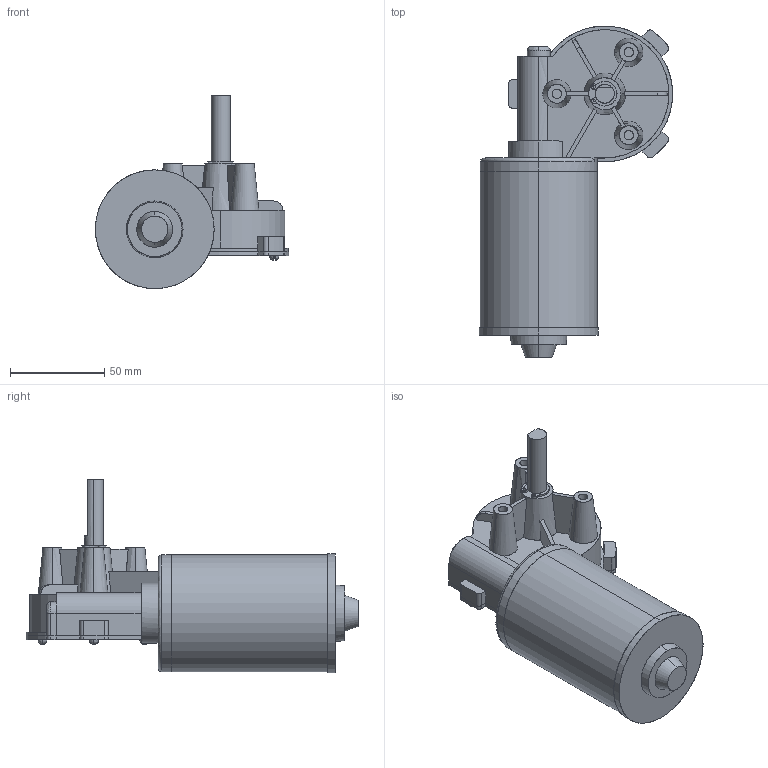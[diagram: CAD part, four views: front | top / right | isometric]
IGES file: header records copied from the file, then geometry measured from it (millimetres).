
Start section: SolidWorks IGES file using analytic representation for surfaces
Bounding box: 102.5 x 176 x 102.5 mm (x, y, z)
Surface area: 65587.8 mm2 (no closed solid volume)
Topology: 0 solids, 0 shells, 193 faces, 3126 edges, 3126 vertices
Faces by surface type: bspline 111, revolution 82
